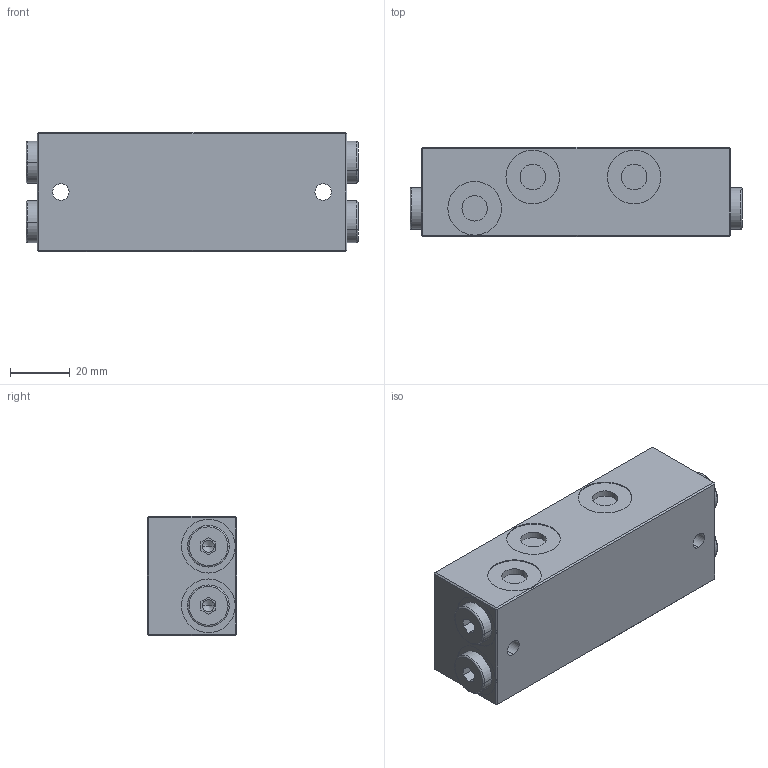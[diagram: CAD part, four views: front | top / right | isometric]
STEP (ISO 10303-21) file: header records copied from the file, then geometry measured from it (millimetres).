
FILE_DESCRIPTION (( 'STEP AP214' ), '1' );
FILE_NAME ('B3_2.STEP', '2017-05-01T13:22:30', ( '' ), ( '' ), 'SwSTEP 2.0', 'SolidWorks 2016', '' );
FILE_SCHEMA (( 'AUTOMOTIVE_DESIGN' ));
Length unit declared in the file: millimetre
Products named in the file (1): B3_2
Bounding box: 111.4 x 30 x 40 mm (x, y, z)
Volume: 123416.4 mm3; surface area: 21253 mm2
Topology: 5 solids, 9 shells, 244 faces, 524 edges, 334 vertices
Faces by surface type: cylinder 112, plane 108, cone 16, torus 8
Entity records: 9192 total; most frequent: DIRECTION 1284, CARTESIAN_POINT 1103, ORIENTED_EDGE 1048, EDGE_CURVE 524, AXIS2_PLACEMENT_3D 515, VERTEX_POINT 334, EDGE_LOOP 300, CIRCLE 270
